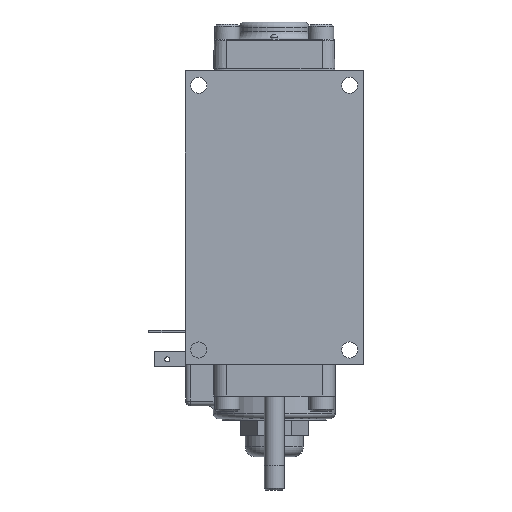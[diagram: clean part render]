
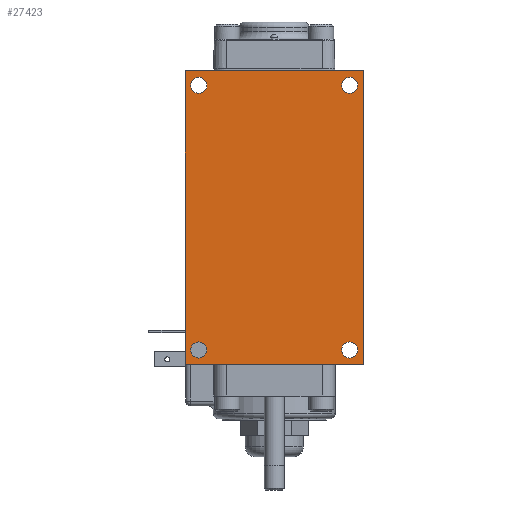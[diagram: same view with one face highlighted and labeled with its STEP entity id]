
A CAD part, front view. The second image highlights one B-rep face of the part: STEP entity #27423.
In plain terms, the highlighted planar face has unit normal (0, -1, 0).
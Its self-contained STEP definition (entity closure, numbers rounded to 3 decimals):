
#541=FACE_BOUND('',#3684,.T.);
#542=FACE_BOUND('',#3685,.T.);
#543=FACE_BOUND('',#3686,.T.);
#544=FACE_BOUND('',#3687,.T.);
#1129=PLANE('',#29389);
#2045=FACE_OUTER_BOUND('',#3683,.T.);
#3683=EDGE_LOOP('',(#19765,#19766,#19767,#19768));
#3684=EDGE_LOOP('',(#19769));
#3685=EDGE_LOOP('',(#19770));
#3686=EDGE_LOOP('',(#19771));
#3687=EDGE_LOOP('',(#19772));
#6372=LINE('',#43468,#8349);
#6373=LINE('',#43470,#8350);
#6374=LINE('',#43472,#8351);
#6375=LINE('',#43473,#8352);
#8349=VECTOR('',#33672,1.);
#8350=VECTOR('',#33673,1.);
#8351=VECTOR('',#33674,1.);
#8352=VECTOR('',#33675,1.);
#9944=CIRCLE('',#29390,0.258);
#9945=CIRCLE('',#29391,0.258);
#9946=CIRCLE('',#29392,0.258);
#9947=CIRCLE('',#29393,0.258);
#11704=VERTEX_POINT('',#43466);
#11705=VERTEX_POINT('',#43467);
#11706=VERTEX_POINT('',#43469);
#11707=VERTEX_POINT('',#43471);
#11708=VERTEX_POINT('',#43474);
#11709=VERTEX_POINT('',#43476);
#11710=VERTEX_POINT('',#43478);
#11711=VERTEX_POINT('',#43480);
#14695=EDGE_CURVE('',#11704,#11705,#6372,.T.);
#14696=EDGE_CURVE('',#11706,#11704,#6373,.T.);
#14697=EDGE_CURVE('',#11707,#11706,#6374,.T.);
#14698=EDGE_CURVE('',#11705,#11707,#6375,.T.);
#14699=EDGE_CURVE('',#11708,#11708,#9944,.T.);
#14700=EDGE_CURVE('',#11709,#11709,#9945,.T.);
#14701=EDGE_CURVE('',#11710,#11710,#9946,.T.);
#14702=EDGE_CURVE('',#11711,#11711,#9947,.T.);
#19765=ORIENTED_EDGE('',*,*,#14695,.F.);
#19766=ORIENTED_EDGE('',*,*,#14696,.F.);
#19767=ORIENTED_EDGE('',*,*,#14697,.F.);
#19768=ORIENTED_EDGE('',*,*,#14698,.F.);
#19769=ORIENTED_EDGE('',*,*,#14699,.T.);
#19770=ORIENTED_EDGE('',*,*,#14700,.T.);
#19771=ORIENTED_EDGE('',*,*,#14701,.T.);
#19772=ORIENTED_EDGE('',*,*,#14702,.T.);
#27423=ADVANCED_FACE('',(#2045,#541,#542,#543,#544),#1129,.F.);
#29389=AXIS2_PLACEMENT_3D('',#43465,#33670,#33671);
#29390=AXIS2_PLACEMENT_3D('',#43475,#33676,#33677);
#29391=AXIS2_PLACEMENT_3D('',#43477,#33678,#33679);
#29392=AXIS2_PLACEMENT_3D('',#43479,#33680,#33681);
#29393=AXIS2_PLACEMENT_3D('',#43481,#33682,#33683);
#33670=DIRECTION('center_axis',(0.,1.,0.));
#33671=DIRECTION('ref_axis',(0.,0.,1.));
#33672=DIRECTION('',(0.,0.,1.));
#33673=DIRECTION('',(-1.,0.,0.));
#33674=DIRECTION('',(0.,0.,-1.));
#33675=DIRECTION('',(1.,0.,0.));
#33676=DIRECTION('center_axis',(0.,1.,0.));
#33677=DIRECTION('ref_axis',(-1.,0.,0.));
#33678=DIRECTION('center_axis',(0.,1.,0.));
#33679=DIRECTION('ref_axis',(-1.,0.,0.));
#33680=DIRECTION('center_axis',(0.,1.,0.));
#33681=DIRECTION('ref_axis',(-1.,0.,0.));
#33682=DIRECTION('center_axis',(0.,1.,0.));
#33683=DIRECTION('ref_axis',(-1.,0.,0.));
#43465=CARTESIAN_POINT('Origin',(0.,-1.636,0.));
#43466=CARTESIAN_POINT('',(-2.858,-1.636,-4.71));
#43467=CARTESIAN_POINT('',(-2.858,-1.636,4.71));
#43468=CARTESIAN_POINT('',(-2.858,-1.636,-4.71));
#43469=CARTESIAN_POINT('',(2.858,-1.636,-4.71));
#43470=CARTESIAN_POINT('',(2.858,-1.636,-4.71));
#43471=CARTESIAN_POINT('',(2.858,-1.636,4.71));
#43472=CARTESIAN_POINT('',(2.858,-1.636,4.71));
#43473=CARTESIAN_POINT('',(-2.858,-1.636,4.71));
#43474=CARTESIAN_POINT('',(-2.163,-1.636,-4.247));
#43475=CARTESIAN_POINT('Origin',(-2.421,-1.636,-4.247));
#43476=CARTESIAN_POINT('',(-2.163,-1.636,4.247));
#43477=CARTESIAN_POINT('Origin',(-2.421,-1.636,4.247));
#43478=CARTESIAN_POINT('',(2.678,-1.636,-4.247));
#43479=CARTESIAN_POINT('Origin',(2.421,-1.636,-4.247));
#43480=CARTESIAN_POINT('',(2.678,-1.636,4.247));
#43481=CARTESIAN_POINT('Origin',(2.421,-1.636,4.247));
